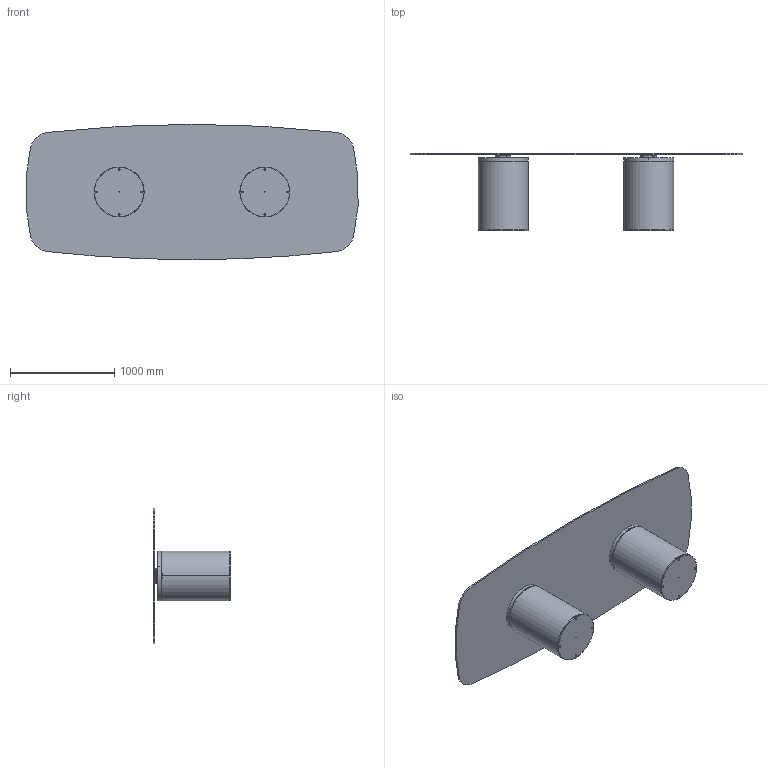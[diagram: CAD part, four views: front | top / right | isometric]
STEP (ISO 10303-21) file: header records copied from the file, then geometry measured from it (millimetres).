
FILE_DESCRIPTION (( 'STEP AP203' ), '1' );
FILE_NAME ('CI46G.STEP', '2024-08-08T06:50:49', ( '' ), ( '' ), 'SwSTEP 2.0', 'SolidWorks 2022', '' );
FILE_SCHEMA (( 'CONFIG_CONTROL_DESIGN' ));
Length unit declared in the file: millimetre
Products named in the file (12): CIB000000_02-01-ZAVORRA IN FERRO D.480mm; CIB000000_01-00-struttura cilindro D.480mm; CIB000000SPE-00-SPESSORE PER CILINDRO TRASPARENTE; C4XCRXX-00-Piani Sagomati in Cristallo TRASPARENTE_C46 3200 x 1300; CI46G; Grano M6_M6x14; CIB000000-00-CILINDRO BASE D.480mm_SENZA PIASTRA; CIB000000BAR-00-BARRA PER CILINDRO TRASPARENTE_Default<A macchina>; PIASTRE DOPPIE D.150 PER TRASPARENTE FEMMINA_Ø150; PIASTRE DOPPIE D.150 PER TRASPARENTE MASCHIO_Ø150; C2XCRXX-00-Piani Sagomati Cristallo Trasparente CON DISCHI_C46CR0CI-00-PIANO CRI. 320x130cm sag. CILINDRO; M8xXXmm_hex_M8X20mm
Assembly tree (24 placements, depth 3):
  CI46G
    C2XCRXX-00-Piani Sagomati Cristallo Trasparente CON DISCHI_C46CR0CI-00-PIANO CRI. 320x130cm sag. CILINDRO
      C4XCRXX-00-Piani Sagomati in Cristallo TRASPARENTE_C46 3200 x 1300
      PIASTRE DOPPIE D.150 PER TRASPARENTE MASCHIO_Ø150  x2
    CIB000000-00-CILINDRO BASE D.480mm_SENZA PIASTRA  x2
      CIB000000_01-00-struttura cilindro D.480mm
      CIB000000_02-01-ZAVORRA IN FERRO D.480mm
      M8xXXmm_hex_M8X20mm
    CIB000000SPE-00-SPESSORE PER CILINDRO TRASPARENTE  x2
    CIB000000BAR-00-BARRA PER CILINDRO TRASPARENTE_Default<A macchina>  x2
    PIASTRE DOPPIE D.150 PER TRASPARENTE FEMMINA_Ø150  x2
    Grano M6_M6x14  x6
Bounding box: 3189.57 x 747 x 1300 mm (x, y, z)
Volume: 80776802.7 mm3; surface area: 14383437.7 mm2
Topology: 37 solids, 37 shells, 957 faces, 2243 edges, 1352 vertices
Faces by surface type: cylinder 441, plane 330, cone 124, sphere 28, bspline 18, torus 16
Entity records: 13053 total; most frequent: CARTESIAN_POINT 4286, DIRECTION 1605, ORIENTED_EDGE 1406, EDGE_CURVE 703, AXIS2_PLACEMENT_3D 649, VERTEX_POINT 434, EDGE_LOOP 373, CIRCLE 323
